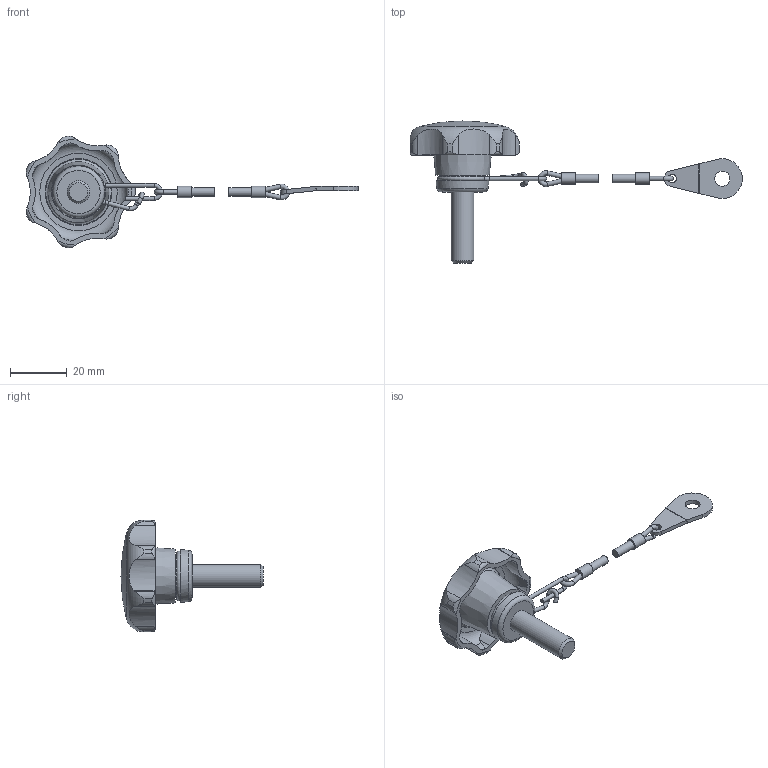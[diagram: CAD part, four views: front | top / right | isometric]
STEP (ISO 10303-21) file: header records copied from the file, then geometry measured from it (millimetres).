
FILE_DESCRIPTION( ( 'STEP AP203' ), '1' );
FILE_NAME( 'C:/Temp/Ganter_Step_05_03_2020/data/2_2/gn_6336_13/gn_6336_13_2/Star knob GN 6336.13-40-M8-25-H.stp', '2020-03-05T12:11:40', ( 'License CC BY-ND 4.0' ), ( 'CADENAS' ), ' ', 'PARTsolutions', ' ' );
FILE_SCHEMA( ( 'CONFIG_CONTROL_DESIGN' ) );
Length unit declared in the file: millimetre
Products named in the file (3): Star knob GN 6336.13-40-M8-25-H; _Star knob GN 6336.13-40-M8-25-H 6; _Star knob GN 111.2-200-14 h2
Assembly tree (2 placements, depth 2):
  Star knob GN 6336.13-40-M8-25-H
    _Star knob GN 6336.13-40-M8-25-H 6
    _Star knob GN 111.2-200-14 h2
Bounding box: 116.85 x 50 x 39.31 mm (x, y, z)
Volume: 13155.7 mm3; surface area: 7296.4 mm2
Topology: 2 solids, 2 shells, 154 faces, 422 edges, 274 vertices
Faces by surface type: cylinder 87, plane 35, torus 20, cone 11, sphere 1
Full cylindrical faces by diameter (mm): 1.4 x5, 1.6 x4, 3 x3, 4 x2, 5.3 x1, 8 x1, 14.7 x1
Entity records: 5502 total; most frequent: CARTESIAN_POINT 1785, ORIENTED_EDGE 738, DIRECTION 722, EDGE_CURVE 369, AXIS2_PLACEMENT_3D 302, VERTEX_POINT 263, EDGE_LOOP 205, FACE_OUTER_BOUND 183
